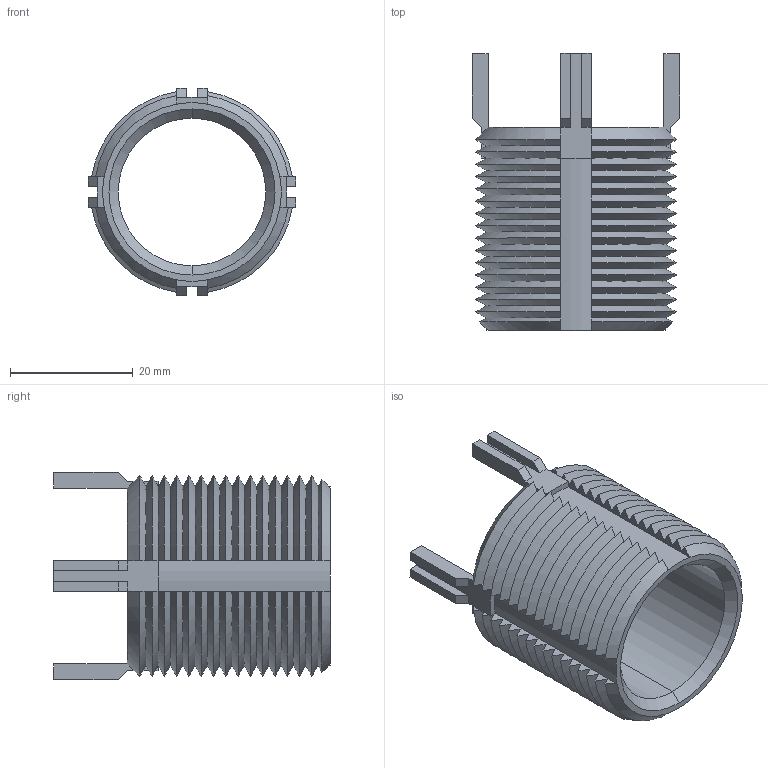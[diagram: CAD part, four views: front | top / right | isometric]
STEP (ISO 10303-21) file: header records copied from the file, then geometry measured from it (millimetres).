
FILE_DESCRIPTION (( 'STEP AP203' ), '1' );
FILE_NAME ('22002.W5750.step', '2020-01-04T21:37:49', ( '' ), ( '' ), 'SwSTEP 2.0', 'SolidWorks 2017', '' );
FILE_SCHEMA (( 'CONFIG_CONTROL_DESIGN' ));
Length unit declared in the file: millimetre
Products named in the file (1): 22002.W5750
Bounding box: 33.77 x 45 x 33.77 mm (x, y, z)
Volume: 10000 mm3; surface area: 9624.2 mm2
Topology: 1 solids, 1 shells, 228 faces, 610 edges, 384 vertices
Faces by surface type: cone 132, plane 90, cylinder 6
Entity records: 8119 total; most frequent: CARTESIAN_POINT 2819, ORIENTED_EDGE 1220, DIRECTION 928, EDGE_CURVE 610, VERTEX_POINT 384, AXIS2_PLACEMENT_3D 377, B_SPLINE_CURVE_WITH_KNOTS 288, EDGE_LOOP 230
